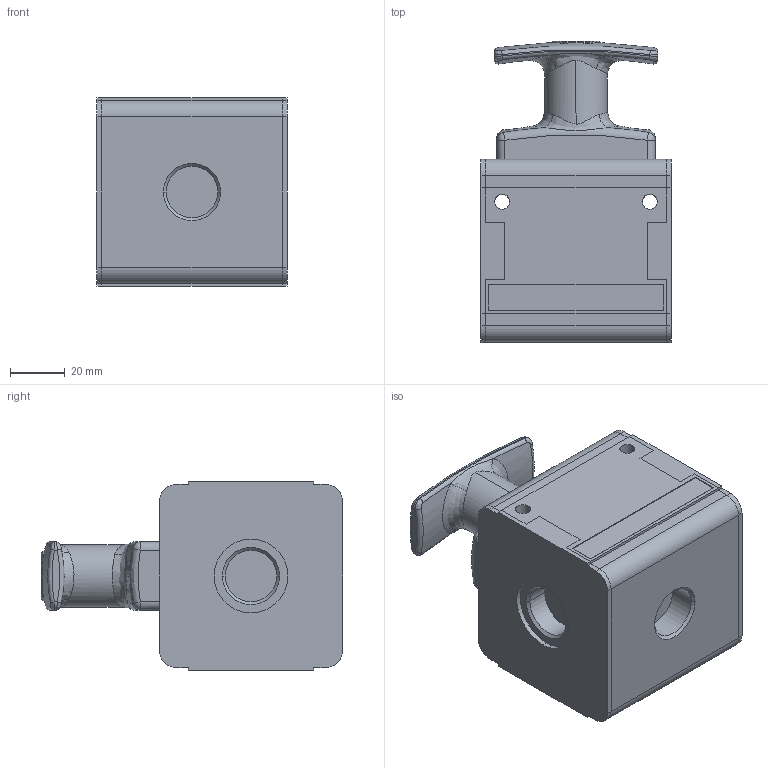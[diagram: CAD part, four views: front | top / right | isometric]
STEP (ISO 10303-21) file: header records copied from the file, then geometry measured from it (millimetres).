
FILE_DESCRIPTION((''),'2;1');
FILE_NAME('0821300982_ASM','2019-09-23T',('hug2hc'),(''),'CREO PARAMETRIC BY PTC INC, 2016260','CREO PARAMETRIC BY PTC INC, 2016260','');
FILE_SCHEMA(('CONFIG_CONTROL_DESIGN'));
Length unit declared in the file: millimetre
Products named in the file (3): 0821300982-A; 0821300982-B; 0821300982_ASM
Assembly tree (3 placements, depth 2):
  0821300982_ASM
    0821300982-A
    0821300982-B  x2
Bounding box: 69.6 x 110.2 x 69 mm (x, y, z)
Volume: 336077.8 mm3; surface area: 56138.6 mm2
Topology: 3 solids, 3 shells, 250 faces, 692 edges, 453 vertices
Faces by surface type: plane 142, cylinder 52, bspline 22, cone 16, torus 14, sphere 4
Entity records: 8139 total; most frequent: CARTESIAN_POINT 2540, ORIENTED_EDGE 1220, DIRECTION 1040, EDGE_CURVE 610, VERTEX_POINT 401, VECTOR 366, LINE 366, AXIS2_PLACEMENT_3D 337
